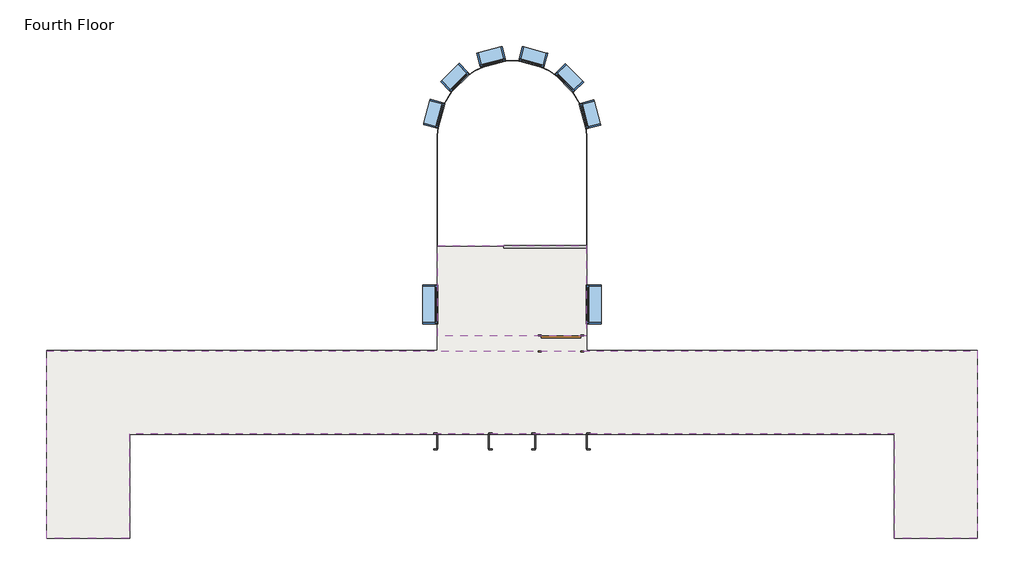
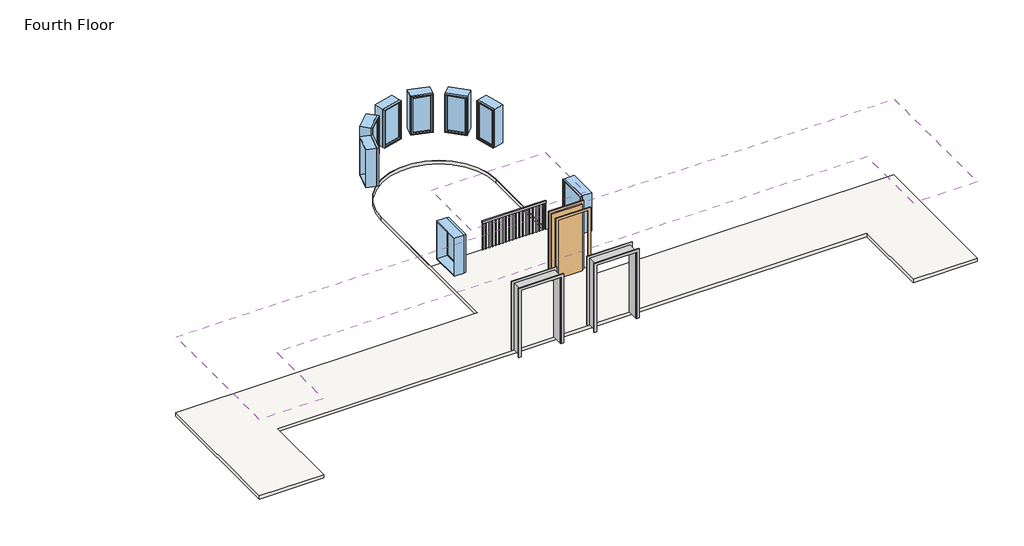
# One storey: 8 windows, 2 coverings, 2 proxies, 1 door, 1 railing, 1 slab.
"""IFC4 building model written with IfcOpenShell, lengths in millimetres."""

import ifcopenshell
import ifcopenshell.guid

model = None  # the IFC model being written
_history = None  # IfcOwnerHistory: only IFC2X3 demands one
_inside = {}  # id of a spatial element -> (the spatial element, [elements in it])
_under = {}  # id of a project, library or spatial element -> (it, [spatial elements below it])
_declared = {}  # id of a project -> (the project, [libraries it declares])
_typed = {}  # id of a type object -> (the type object, [elements of that type])
_made_of = {}  # id of a material, layer set ... -> (it, [elements and type objects made of it])


def new_model(schema):
    """Start an empty IFC model of exactly this schema.

    Asked for "IFC4X3", IfcOpenShell would pick the latest addendum, in which some entities
    have other attributes; the version numbers below select the first issue.
    IFC2X3 requires an IfcOwnerHistory on every rooted entity: one is made here for all.
    """
    global model, _history
    if schema == "IFC4X3":
        model = ifcopenshell.file(schema_version=(4, 3, 0, 0))
    else:
        model = ifcopenshell.file(schema=schema)
    _inside.clear()
    _under.clear()
    _declared.clear()
    _typed.clear()
    _made_of.clear()
    _history = None
    if model.schema == "IFC2X3":
        org = make("IfcOrganization", Name="unknown")
        user = make(
            "IfcPersonAndOrganization",
            ThePerson=make("IfcPerson", FamilyName="unknown"),
            TheOrganization=org,
        )
        app = make(
            "IfcApplication",
            ApplicationDeveloper=org,
            Version="unknown",
            ApplicationFullName="unknown",
            ApplicationIdentifier="unknown",
        )
        _history = make(
            "IfcOwnerHistory",
            OwningUser=user,
            OwningApplication=app,
            ChangeAction="ADDED",
            CreationDate=0,
        )
    return model


def make(cls, **values):
    """One entity of the class cls with the attributes given. An attribute that is None is left unset."""
    return model.create_entity(
        cls, **{name: value for name, value in values.items() if value is not None}
    )


def rooted(cls, **values):
    """An entity with a GlobalId (a new one), such as an element, a storey or a relation."""
    return make(cls, GlobalId=ifcopenshell.guid.new(), OwnerHistory=_history, **values)


def si_unit(unit_type, name, prefix=None):
    """IfcSIUnit, for example si_unit("LENGTHUNIT", "METRE", prefix="MILLI")."""
    return make("IfcSIUnit", UnitType=unit_type, Prefix=prefix, Name=name)


def assignment(units):
    """IfcUnitAssignment: the units of a project."""
    return None if units is None else make("IfcUnitAssignment", Units=units)


def point(xyz):
    """IfcCartesianPoint."""
    return None if xyz is None else make("IfcCartesianPoint", Coordinates=xyz)


def direction(xyz):
    """IfcDirection."""
    return None if xyz is None else make("IfcDirection", DirectionRatios=xyz)


def frame(location, z_axis=None, x_axis=None):
    """IfcAxis2Placement3D, a coordinate frame: its origin and axes. An axis left out is left unset."""
    return make(
        "IfcAxis2Placement3D",
        Location=point(location),
        Axis=direction(z_axis),
        RefDirection=direction(x_axis),
    )


def frame_2d(location, x_axis=None):
    """IfcAxis2Placement2D, a coordinate frame in the plane: its origin and x axis."""
    return make(
        "IfcAxis2Placement2D", Location=point(location), RefDirection=direction(x_axis)
    )


def origin():
    """The frame at (0, 0, 0) with its axes left unset."""
    return frame((0.0, 0.0, 0.0))


def origin_with_axes():
    """The frame at (0, 0, 0) with the z axis (0, 0, 1) and the x axis (1, 0, 0) written out."""
    return frame((0.0, 0.0, 0.0), z_axis=(0.0, 0.0, 1.0), x_axis=(1.0, 0.0, 0.0))


def place(relative_to, where):
    """IfcLocalPlacement: puts the frame where relative to a parent placement (None: the world)."""
    return make(
        "IfcLocalPlacement", PlacementRelTo=relative_to, RelativePlacement=where
    )


def context(
    kind, dimensions, precision=None, world=None, true_north=None, identifier=None
):
    """IfcGeometricRepresentationContext, for example the 3D "Model" context."""
    return make(
        "IfcGeometricRepresentationContext",
        ContextIdentifier=identifier,
        ContextType=kind,
        CoordinateSpaceDimension=dimensions,
        Precision=precision,
        WorldCoordinateSystem=world,
        TrueNorth=true_north,
    )


def project(units=None, contexts=None):
    """IfcProject with its units and contexts."""
    return rooted(
        "IfcProject",
        Name="project",
        RepresentationContexts=contexts,
        UnitsInContext=assignment(units),
    )


def spatial(cls, under=None, at=None, **own):
    """A site, building, storey or space (cls), placed at a placement, below another one or the project."""
    s = rooted(cls, ObjectPlacement=at, **own)
    if under is not None:
        _under.setdefault(under.id(), (under, []))[1].append(s)
    return s


def polyline(points):
    """IfcPolyline through the points."""
    return make("IfcPolyline", Points=[point(p) for p in points])


def circle_curve(where, radius):
    """IfcCircle in the frame where."""
    return make("IfcCircle", Position=where, Radius=radius)


def trimmed(basis, trim1, trim2, sense, master):
    """IfcTrimmedCurve: the piece of a basis curve between two trims."""
    return make(
        "IfcTrimmedCurve",
        BasisCurve=basis,
        Trim1=trim1,
        Trim2=trim2,
        SenseAgreement=sense,
        MasterRepresentation=master,
    )


def segment(curve, same_sense, transition):
    """IfcCompositeCurveSegment."""
    return make(
        "IfcCompositeCurveSegment",
        Transition=transition,
        SameSense=same_sense,
        ParentCurve=curve,
    )


def composite_curve(segments, self_intersect=None):
    """IfcCompositeCurve: segments joined end to end."""
    return make("IfcCompositeCurve", Segments=segments, SelfIntersect=self_intersect)


def outline(outer, holes=None, kind="AREA"):
    """IfcArbitraryClosedProfileDef: a profile drawn as a closed curve; with holes, ...WithVoids."""
    if holes is None:
        return make("IfcArbitraryClosedProfileDef", ProfileType=kind, OuterCurve=outer)
    return make(
        "IfcArbitraryProfileDefWithVoids",
        ProfileType=kind,
        OuterCurve=outer,
        InnerCurves=holes,
    )


def extrude(swept, where, along, depth):
    """IfcExtrudedAreaSolid: the profile swept, set in the frame where, extruded along a direction by depth."""
    return make(
        "IfcExtrudedAreaSolid",
        SweptArea=swept,
        Position=where,
        ExtrudedDirection=direction(along),
        Depth=depth,
    )


def faces_of(points, faces, orient=None, outer=None):
    """IfcFace entities. A face is a list of loops; a loop is a list of indices into points, from 0.

    orient and outer hold one flag for each loop. By default every Orientation is true, the
    first loop of a face is its IfcFaceOuterBound and the others are IfcFaceBound.
    """
    made = []
    for i, loops in enumerate(faces):
        bounds = []
        for j, loop in enumerate(loops):
            is_outer = j == 0 if outer is None else outer[i][j]
            bounds.append(
                make(
                    "IfcFaceOuterBound" if is_outer else "IfcFaceBound",
                    Bound=make("IfcPolyLoop", Polygon=[points[k] for k in loop]),
                    Orientation=True if orient is None else orient[i][j],
                )
            )
        made.append(make("IfcFace", Bounds=bounds))
    return made


def faceted_brep(points, faces, orient=None, outer=None, voids=None):
    """IfcFacetedBrep: a solid bounded by flat faces; with voids (closed shells), ...WithVoids."""
    shared = [point(p) for p in points]
    hull = make("IfcClosedShell", CfsFaces=faces_of(shared, faces, orient, outer))
    if voids is None:
        return make("IfcFacetedBrep", Outer=hull)
    return make(
        "IfcFacetedBrepWithVoids",
        Outer=hull,
        Voids=[
            make(cls, CfsFaces=faces_of(shared, fs, o, b)) for cls, fs, o, b in voids
        ],
    )


def shape(context_of_items, identifier, shape_type, items):
    """IfcShapeRepresentation: the items that make up one representation, for example the "Body"."""
    return make(
        "IfcShapeRepresentation",
        ContextOfItems=context_of_items,
        RepresentationIdentifier=identifier,
        RepresentationType=shape_type,
        Items=items,
    )


def source(mapping_origin, context_of_items, identifier, shape_type, items):
    """IfcRepresentationMap: a shape defined once, which mapped items show again and again."""
    return make(
        "IfcRepresentationMap",
        MappingOrigin=mapping_origin,
        MappedRepresentation=shape(context_of_items, identifier, shape_type, items),
    )


def transform(
    local_origin,
    x_axis=None,
    y_axis=None,
    z_axis=None,
    scale=None,
    scale2=None,
    scale3=None,
    uniform=True,
):
    """IfcCartesianTransformationOperator3D, or its non-uniform kind. x_axis, y_axis, z_axis: its Axis1, 2, 3."""
    if uniform:
        return make(
            "IfcCartesianTransformationOperator3D",
            Axis1=direction(x_axis),
            Axis2=direction(y_axis),
            LocalOrigin=point(local_origin),
            Scale=scale,
            Axis3=direction(z_axis),
        )
    return make(
        "IfcCartesianTransformationOperator3DnonUniform",
        Axis1=direction(x_axis),
        Axis2=direction(y_axis),
        LocalOrigin=point(local_origin),
        Scale=scale,
        Axis3=direction(z_axis),
        Scale2=scale2,
        Scale3=scale3,
    )


def mapped(mapping_source, mapping_target):
    """IfcMappedItem: shows the shape of a source again, moved by a transform."""
    return make(
        "IfcMappedItem", MappingSource=mapping_source, MappingTarget=mapping_target
    )


def made_of(thing, what):
    """Note that an element or type object is made of a material, layer set ...; save() writes the relation."""
    if what is not None:
        _made_of.setdefault(what.id(), (what, []))[1].append(thing)
    return thing


def element(
    cls,
    number,
    at=None,
    inside=None,
    cuts=None,
    type_object=None,
    material=None,
    context=None,
    identifier="Body",
    shape_type=None,
    held_by="IfcProductDefinitionShape",
    body=None,
    shapes=None,
    **own,
):
    """One element of the class cls, such as IfcWall. Its Tag is "e" and its number.

    at: its placement. inside: the storey or other place that contains it. cuts: it is an
    opening in that element (IfcRelVoidsElement). A single representation is given by context,
    identifier, shape_type and body (its items); several are given by shapes. held_by: the class
    of the entity that holds the representations. save() writes the other relations.
    """
    e = rooted(cls, Tag="e%d" % number, ObjectPlacement=at, **own)
    if body is not None:
        shapes = [shape(context, identifier, shape_type, body)]
    if shapes is not None:
        e.Representation = make(held_by, Representations=shapes)
    if inside is not None:
        _inside.setdefault(inside.id(), (inside, []))[1].append(e)
    if cuts is not None:
        rooted(
            "IfcRelVoidsElement", RelatingBuildingElement=cuts, RelatedOpeningElement=e
        )
    if type_object is not None:
        _typed.setdefault(type_object.id(), (type_object, []))[1].append(e)
    return made_of(e, material)


def aggregate(whole, parts):
    """IfcRelAggregates: a whole, such as a stair, and the parts it consists of."""
    return rooted("IfcRelAggregates", RelatingObject=whole, RelatedObjects=parts)


def save(model, path):
    """Write the relations noted so far, then the file.

    IfcRelAggregates (storeys below a building ...), IfcRelContainedInSpatialStructure (elements
    in a storey), IfcRelDefinesByType, IfcRelAssociatesMaterial and IfcRelDeclares: one each for
    every whole, place, type object, material and project.
    """
    for whole, parts in _under.values():
        aggregate(whole, parts)
    for where, things in _inside.values():
        rooted(
            "IfcRelContainedInSpatialStructure",
            RelatedElements=things,
            RelatingStructure=where,
        )
    for kind, things in _typed.values():
        rooted("IfcRelDefinesByType", RelatedObjects=things, RelatingType=kind)
    for what, things in _made_of.values():
        rooted("IfcRelAssociatesMaterial", RelatedObjects=things, RelatingMaterial=what)
    for by, libraries in _declared.values():
        rooted("IfcRelDeclares", RelatingContext=by, RelatedDefinitions=libraries)
    model.write(path)


def proxy_c3589814(model_context):
    return source(origin(), model_context, "Body", "SolidModel", [
        extrude(outline(polyline([(0.0, -611.4386567), (2127.25, -611.4386567), (2127.25, 595.0613433), (0.0, 595.0613433), (0.0, 671.2613433), (2203.45, 671.2613433), (2203.45, -687.6386567), (0.0, -687.6386567), (0.0, -611.4386567)])), frame((0.0, -195.2625, 0.0), z_axis=(0.0, 1.0, 0.0), x_axis=(0.0, 0.0, 1.0)), (0.0, 0.0, 1.0), 19.05),
        extrude(outline(polyline([(0.0, 671.2613433), (2209.8, 671.2613433), (2209.8, -687.6386567), (0.0, -687.6386567), (0.0, -611.4386567), (2127.25, -611.4386567), (2127.25, 595.0613433), (0.0, 595.0613433), (0.0, 671.2613433)])), frame((0.0, 176.2125, 0.0), z_axis=(0.0, 1.0, 0.0), x_axis=(0.0, 0.0, 1.0)), (0.0, 0.0, 1.0), 19.05),
        faceted_brep([(582.3613433, 176.2125, 0.0), (601.4113433, 176.2125, 0.0), (601.4113433, -176.2125, 0.0), (582.3613433, -176.2125, 0.0), (582.3613433, 176.2125, 2114.55), (601.4113433, 176.2125, 2133.6), (601.4113433, -176.2125, 2133.6), (582.3613433, -176.2125, 2114.55), (-598.7386567, 176.2125, 2114.55), (-617.7886567, 176.2125, 2133.6), (-617.7886567, -176.2125, 2133.6), (-598.7386567, -176.2125, 2114.55), (-598.7386567, 176.2125, 0.0), (-598.7386567, -176.2125, 0.0), (-617.7886567, -176.2125, 0.0), (-617.7886567, 176.2125, 0.0)], [[[0, 1, 2, 3]], [[1, 0, 4, 5]], [[2, 1, 5, 6]], [[3, 2, 6, 7]], [[0, 3, 7, 4]], [[5, 4, 8, 9]], [[6, 5, 9, 10]], [[7, 6, 10, 11]], [[4, 7, 11, 8]], [[12, 13, 14, 15]], [[9, 8, 12, 15]], [[10, 9, 15, 14]], [[11, 10, 14, 13]], [[8, 11, 13, 12]]]),
    ])


def door_632be17d(model_context):
    return source(origin(), model_context, "Body", "SweptSolid", [
        extrude(outline(polyline([(2209.8, -533.4), (0.0, -533.4), (0.0, -457.2), (2133.6, -457.2), (2133.6, 457.2), (0.0, 457.2), (0.0, 533.4), (2209.8, 533.4), (2209.8, -533.4)])), frame((0.0, 176.2125, 0.0), z_axis=(0.0, 1.0, 0.0), x_axis=(0.0, 0.0, 1.0)), (0.0, 0.0, 1.0), 25.4),
        extrude(outline(polyline([(2209.8, 533.4), (2209.8, -533.4), (0.0, -533.4), (0.0, -457.2), (2133.6, -457.2), (2133.6, 457.2), (0.0, 457.2), (0.0, 533.4), (2209.8, 533.4)])), frame((0.0, -201.6125, 0.0), z_axis=(0.0, 1.0, 0.0), x_axis=(0.0, 0.0, 1.0)), (0.0, 0.0, 1.0), 25.4),
        extrude(outline(polyline([(457.2, 125.4125), (-457.2, 125.4125), (-457.2, 176.2125), (457.2, 176.2125), (457.2, 125.4125)])), origin_with_axes(), (0.0, 0.0, 1.0), 2133.6),
    ])


def handrail_rectangular_fea96ac0(model_context):
    return source(origin(), model_context, "Body", "SweptSolid", [
        extrude(outline(polyline([(-6434.5274687, 6951.1758812), (-6434.5274687, 7001.9758812), (-4516.8274687, 7001.9758812), (-4516.8274687, 6951.1758812), (-6434.5274687, 6951.1758812)])), frame((0.0, 0.0, 10007.6), z_axis=(0.0, 0.0, 1.0), x_axis=(1.0, 0.0, 0.0)), (0.0, 0.0, 1.0), 50.8),
        extrude(outline(polyline([(-4615.2524687, 6967.0508812), (-4615.2524687, 6986.1008812), (-4596.2024687, 6986.1008812), (-4596.2024687, 6967.0508812), (-4615.2524687, 6967.0508812)])), frame((0.0, 0.0, 9144.0), z_axis=(0.0, 0.0, 1.0), x_axis=(1.0, 0.0, 0.0)), (0.0, 0.0, 1.0), 863.6),
        extrude(outline(polyline([(-4716.8524687, 6967.0508812), (-4716.8524687, 6986.1008812), (-4697.8024687, 6986.1008812), (-4697.8024687, 6967.0508812), (-4716.8524687, 6967.0508812)])), frame((0.0, 0.0, 9144.0), z_axis=(0.0, 0.0, 1.0), x_axis=(1.0, 0.0, 0.0)), (0.0, 0.0, 1.0), 863.6),
        extrude(outline(polyline([(-4818.4524687, 6967.0508812), (-4818.4524687, 6986.1008812), (-4799.4024687, 6986.1008812), (-4799.4024687, 6967.0508812), (-4818.4524687, 6967.0508812)])), frame((0.0, 0.0, 9144.0), z_axis=(0.0, 0.0, 1.0), x_axis=(1.0, 0.0, 0.0)), (0.0, 0.0, 1.0), 863.6),
        extrude(outline(polyline([(-4920.0524687, 6967.0508812), (-4920.0524687, 6986.1008812), (-4901.0024687, 6986.1008812), (-4901.0024687, 6967.0508812), (-4920.0524687, 6967.0508812)])), frame((0.0, 0.0, 9144.0), z_axis=(0.0, 0.0, 1.0), x_axis=(1.0, 0.0, 0.0)), (0.0, 0.0, 1.0), 863.6),
        extrude(outline(polyline([(-5021.6524687, 6967.0508812), (-5021.6524687, 6986.1008812), (-5002.6024687, 6986.1008812), (-5002.6024687, 6967.0508812), (-5021.6524687, 6967.0508812)])), frame((0.0, 0.0, 9144.0), z_axis=(0.0, 0.0, 1.0), x_axis=(1.0, 0.0, 0.0)), (0.0, 0.0, 1.0), 863.6),
        extrude(outline(polyline([(-5123.2524687, 6967.0508812), (-5123.2524687, 6986.1008812), (-5104.2024687, 6986.1008812), (-5104.2024687, 6967.0508812), (-5123.2524687, 6967.0508812)])), frame((0.0, 0.0, 9144.0), z_axis=(0.0, 0.0, 1.0), x_axis=(1.0, 0.0, 0.0)), (0.0, 0.0, 1.0), 863.6),
        extrude(outline(polyline([(-5224.8524687, 6967.0508812), (-5224.8524687, 6986.1008812), (-5205.8024687, 6986.1008812), (-5205.8024687, 6967.0508812), (-5224.8524687, 6967.0508812)])), frame((0.0, 0.0, 9144.0), z_axis=(0.0, 0.0, 1.0), x_axis=(1.0, 0.0, 0.0)), (0.0, 0.0, 1.0), 863.6),
        extrude(outline(polyline([(-5326.4524687, 6967.0508812), (-5326.4524687, 6986.1008812), (-5307.4024687, 6986.1008812), (-5307.4024687, 6967.0508812), (-5326.4524687, 6967.0508812)])), frame((0.0, 0.0, 9144.0), z_axis=(0.0, 0.0, 1.0), x_axis=(1.0, 0.0, 0.0)), (0.0, 0.0, 1.0), 863.6),
        extrude(outline(polyline([(-5428.0524687, 6967.0508812), (-5428.0524687, 6986.1008812), (-5409.0024687, 6986.1008812), (-5409.0024687, 6967.0508812), (-5428.0524687, 6967.0508812)])), frame((0.0, 0.0, 9144.0), z_axis=(0.0, 0.0, 1.0), x_axis=(1.0, 0.0, 0.0)), (0.0, 0.0, 1.0), 863.6),
        extrude(outline(polyline([(-5529.6524687, 6967.0508812), (-5529.6524687, 6986.1008812), (-5510.6024687, 6986.1008812), (-5510.6024687, 6967.0508812), (-5529.6524687, 6967.0508812)])), frame((0.0, 0.0, 9144.0), z_axis=(0.0, 0.0, 1.0), x_axis=(1.0, 0.0, 0.0)), (0.0, 0.0, 1.0), 863.6),
        extrude(outline(polyline([(-5631.2524687, 6967.0508812), (-5631.2524687, 6986.1008812), (-5612.2024687, 6986.1008812), (-5612.2024687, 6967.0508812), (-5631.2524687, 6967.0508812)])), frame((0.0, 0.0, 9144.0), z_axis=(0.0, 0.0, 1.0), x_axis=(1.0, 0.0, 0.0)), (0.0, 0.0, 1.0), 863.6),
        extrude(outline(polyline([(-5732.8524687, 6967.0508812), (-5732.8524687, 6986.1008812), (-5713.8024687, 6986.1008812), (-5713.8024687, 6967.0508812), (-5732.8524687, 6967.0508812)])), frame((0.0, 0.0, 9144.0), z_axis=(0.0, 0.0, 1.0), x_axis=(1.0, 0.0, 0.0)), (0.0, 0.0, 1.0), 863.6),
        extrude(outline(polyline([(-5834.4524687, 6967.0508812), (-5834.4524687, 6986.1008812), (-5815.4024687, 6986.1008812), (-5815.4024687, 6967.0508812), (-5834.4524687, 6967.0508812)])), frame((0.0, 0.0, 9144.0), z_axis=(0.0, 0.0, 1.0), x_axis=(1.0, 0.0, 0.0)), (0.0, 0.0, 1.0), 863.6),
        extrude(outline(polyline([(-5936.0524687, 6967.0508812), (-5936.0524687, 6986.1008812), (-5917.0024687, 6986.1008812), (-5917.0024687, 6967.0508812), (-5936.0524687, 6967.0508812)])), frame((0.0, 0.0, 9144.0), z_axis=(0.0, 0.0, 1.0), x_axis=(1.0, 0.0, 0.0)), (0.0, 0.0, 1.0), 863.6),
        extrude(outline(polyline([(-6037.6524687, 6967.0508812), (-6037.6524687, 6986.1008812), (-6018.6024687, 6986.1008812), (-6018.6024687, 6967.0508812), (-6037.6524687, 6967.0508812)])), frame((0.0, 0.0, 9144.0), z_axis=(0.0, 0.0, 1.0), x_axis=(1.0, 0.0, 0.0)), (0.0, 0.0, 1.0), 863.6),
        extrude(outline(polyline([(-6139.2524687, 6967.0508812), (-6139.2524687, 6986.1008812), (-6120.2024687, 6986.1008812), (-6120.2024687, 6967.0508812), (-6139.2524687, 6967.0508812)])), frame((0.0, 0.0, 9144.0), z_axis=(0.0, 0.0, 1.0), x_axis=(1.0, 0.0, 0.0)), (0.0, 0.0, 1.0), 863.6),
        extrude(outline(polyline([(-6240.8524687, 6967.0508812), (-6240.8524687, 6986.1008812), (-6221.8024687, 6986.1008812), (-6221.8024687, 6967.0508812), (-6240.8524687, 6967.0508812)])), frame((0.0, 0.0, 9144.0), z_axis=(0.0, 0.0, 1.0), x_axis=(1.0, 0.0, 0.0)), (0.0, 0.0, 1.0), 863.6),
        extrude(outline(polyline([(-6342.4524687, 6967.0508812), (-6342.4524687, 6986.1008812), (-6323.4024687, 6986.1008812), (-6323.4024687, 6967.0508812), (-6342.4524687, 6967.0508812)])), frame((0.0, 0.0, 9144.0), z_axis=(0.0, 0.0, 1.0), x_axis=(1.0, 0.0, 0.0)), (0.0, 0.0, 1.0), 863.6),
        extrude(outline(polyline([(-4535.8774687, 6967.0508812), (-4535.8774687, 6986.1008812), (-4516.8274687, 6986.1008812), (-4516.8274687, 6967.0508812), (-4535.8774687, 6967.0508812)])), frame((0.0, 0.0, 9144.0), z_axis=(0.0, 0.0, 1.0), x_axis=(1.0, 0.0, 0.0)), (0.0, 0.0, 1.0), 863.6),
        extrude(outline(polyline([(-6434.5274687, 6967.0508812), (-6434.5274687, 6986.1008812), (-6415.4774687, 6986.1008812), (-6415.4774687, 6967.0508812), (-6434.5274687, 6967.0508812)])), frame((0.0, 0.0, 9144.0), z_axis=(0.0, 0.0, 1.0), x_axis=(1.0, 0.0, 0.0)), (0.0, 0.0, 1.0), 863.6),
    ])


def window_60baf983(model_context):
    return source(origin(), model_context, "Body", "SweptSolid", [
        extrude(outline(polyline([(203.2, 128.5875), (-279.4, 128.5875), (-279.4, 141.2875), (203.2, 141.2875), (203.2, 128.5875)])), frame((0.0, 0.0, 977.9), z_axis=(0.0, 0.0, 1.0), x_axis=(1.0, 0.0, 0.0)), (0.0, 0.0, 1.0), 1092.2),
        extrude(outline(polyline([(2114.55, -323.85), (933.45, -323.85), (933.45, 247.65), (2114.55, 247.65), (2114.55, -323.85)]), holes=[polyline([(2070.1, -279.4), (2070.1, 203.2), (977.9, 203.2), (977.9, -279.4), (2070.1, -279.4)])]), frame((0.0, 112.7125, 0.0), z_axis=(0.0, 1.0, 0.0), x_axis=(0.0, 0.0, 1.0)), (0.0, 0.0, 1.0), 44.45),
        extrude(outline(polyline([(2133.6, -342.9), (914.4, -342.9), (914.4, 266.7), (2133.6, 266.7), (2133.6, -342.9)]), holes=[polyline([(2101.85, -311.15), (2101.85, 234.95), (946.15, 234.95), (946.15, -311.15), (2101.85, -311.15)])]), frame((0.0, -176.2125, 0.0), z_axis=(0.0, 1.0, 0.0), x_axis=(0.0, 0.0, 1.0)), (0.0, 0.0, 1.0), 288.925),
        extrude(outline(polyline([(2133.6, 266.7), (2133.6, -342.9), (914.4, -342.9), (914.4, 266.7), (2133.6, 266.7)]), holes=[polyline([(2114.55, 247.65), (933.45, 247.65), (933.45, -323.85), (2114.55, -323.85), (2114.55, 247.65)])]), frame((0.0, 112.7125, 0.0), z_axis=(0.0, 1.0, 0.0), x_axis=(0.0, 0.0, 1.0)), (0.0, 0.0, 1.0), 63.5),
    ])


def window_15c49d37(model_context):
    return source(origin(), model_context, "Body", "SweptSolid", [
        extrude(outline(polyline([(355.6, 128.5875), (-431.8, 128.5875), (-431.8, 141.2875), (355.6, 141.2875), (355.6, 128.5875)])), frame((0.0, 0.0, 977.9), z_axis=(0.0, 0.0, 1.0), x_axis=(1.0, 0.0, 0.0)), (0.0, 0.0, 1.0), 1092.2),
        extrude(outline(polyline([(2114.55, -476.25), (933.45, -476.25), (933.45, 400.05), (2114.55, 400.05), (2114.55, -476.25)]), holes=[polyline([(2070.1, -431.8), (2070.1, 355.6), (977.9, 355.6), (977.9, -431.8), (2070.1, -431.8)])]), frame((0.0, 112.7125, 0.0), z_axis=(0.0, 1.0, 0.0), x_axis=(0.0, 0.0, 1.0)), (0.0, 0.0, 1.0), 44.45),
        extrude(outline(polyline([(2133.6, -495.3), (914.4, -495.3), (914.4, 419.1), (2133.6, 419.1), (2133.6, -495.3)]), holes=[polyline([(2101.85, -463.55), (2101.85, 387.35), (946.15, 387.35), (946.15, -463.55), (2101.85, -463.55)])]), frame((0.0, -176.2125, 0.0), z_axis=(0.0, 1.0, 0.0), x_axis=(0.0, 0.0, 1.0)), (0.0, 0.0, 1.0), 288.925),
        extrude(outline(polyline([(2133.6, 419.1), (2133.6, -495.3), (914.4, -495.3), (914.4, 419.1), (2133.6, 419.1)]), holes=[polyline([(2114.55, 400.05), (933.45, 400.05), (933.45, -476.25), (2114.55, -476.25), (2114.55, 400.05)])]), frame((0.0, 112.7125, 0.0), z_axis=(0.0, 1.0, 0.0), x_axis=(0.0, 0.0, 1.0)), (0.0, 0.0, 1.0), 63.5),
    ])


model = new_model("IFC4")

# Units and contexts
model_context = context("Model", 3, world=origin())
ifc_project = project(units=[si_unit("LENGTHUNIT", "METRE", prefix="MILLI")], contexts=[model_context])

# Site, building, storey
site = spatial("IfcSite", under=ifc_project)
building = spatial("IfcBuilding", under=site)
storey = spatial("IfcBuildingStorey", under=building, Name="Fourth Floor", Elevation=9144.0)

# Proxies
placement = place(None, origin())
proxy_shape = proxy_c3589814(model_context)
element("IfcBuildingElementProxy", 1, Name="Opening-Cased : 48\" x 84\"", ObjectType="Opening-Cased : 48\" x 84\"", at=placement, inside=storey, context=model_context, shape_type="MappedRepresentation", body=[
    mapped(proxy_shape, transform((-7396.8036255, 2429.9758812, 9144.0), x_axis=(-1.0, 0.0, 0.0), y_axis=(0.0, -1.0, 0.0), z_axis=(0.0, 0.0, 1.0))),
])
element("IfcBuildingElementProxy", 2, Name="Opening-Cased : 48\" x 84\"", ObjectType="Opening-Cased : 48\" x 84\"", at=placement, inside=storey, context=model_context, shape_type="MappedRepresentation", body=[
    mapped(proxy_shape, transform((-5110.8036255, 2429.9758812, 9144.0), x_axis=(-1.0, 0.0, 0.0), y_axis=(0.0, -1.0, 0.0), z_axis=(0.0, 0.0, 1.0))),
])

# Coverings
element("IfcCovering", 3, ObjectType="GWB on Mtl. Stud", at=placement, inside=storey, context=model_context, shape_type="SweptSolid", body=[
    extrude(outline(polyline([(-4516.8274687, 4892.1883812), (-7974.4024687, 4892.1883812), (-7974.4024687, 7001.9758812), (-4516.8274687, 7001.9758812), (-4516.8274687, 4892.1883812)])), frame((0.0, 0.0, 11582.4), z_axis=(0.0, 0.0, 1.0), x_axis=(1.0, 0.0, 0.0)), (0.0, 0.0, 1.0), 107.95),
])
element("IfcCovering", 4, ObjectType="GWB on Mtl. Stud", at=placement, inside=storey, context=model_context, shape_type="SweptSolid", body=[
    extrude(outline(polyline([(2693.5975313, 167.7883812), (2693.5975313, 2606.1883812), (-15184.8274687, 2606.1883812), (-15184.8274687, 167.7883812), (-17118.4024687, 167.7883812), (-17118.4024687, 4539.7633812), (4627.1725313, 4539.7633812), (4627.1725313, 167.7883812), (2693.5975313, 167.7883812)])), frame((0.0, 0.0, 11582.4), z_axis=(0.0, 0.0, 1.0), x_axis=(1.0, 0.0, 0.0)), (0.0, 0.0, 1.0), 107.95),
])

# Door
door_shape = door_632be17d(model_context)
element("IfcDoor", 5, ObjectType="Single-Flush : 36\" x 84\"", at=placement, inside=storey, context=model_context, shape_type="MappedRepresentation", body=[
    mapped(door_shape, transform((-5102.6149687, 4715.9758812, 9144.0), x_axis=(1.0, 0.0, 0.0), y_axis=(0.0, 1.0, 0.0), z_axis=(0.0, 0.0, 1.0))),
])

# Railing
handrail_rectangular_shape = handrail_rectangular_fea96ac0(model_context)
element("IfcRailing", 6, ObjectType="Handrail - Rectangular", at=placement, inside=storey, context=model_context, shape_type="MappedRepresentation", body=[
    mapped(handrail_rectangular_shape, transform((0.0, 0.0, 0.0), x_axis=(1.0, 0.0, 0.0), y_axis=(0.0, 1.0, 0.0), z_axis=(0.0, 0.0, 1.0))),
])

# Slab
element("IfcSlab", 7, ObjectType="LW Concrete on Metal Deck", at=placement, inside=storey, context=model_context, shape_type="SweptSolid", body=[
    extrude(outline(composite_curve([segment(polyline([(-4504.1274687, 9592.7758812), (-4504.1274687, 4552.4633812), (4627.1725313, 4552.4633812), (4627.1725313, 167.7883812), (2680.8975313, 167.7883812), (2680.8975313, 2593.4883812), (-15172.1274687, 2593.4883812), (-15172.1274687, 167.7883812), (-17118.4024687, 167.7883812), (-17118.4024687, 4552.4633812), (-7987.1024687, 4552.4633812), (-7987.1024687, 9592.7758812)]), True, "CONTINUOUS"), segment(trimmed(circle_curve(frame_2d((-6245.6149687, 9592.7758812)), 1741.4875), [point((-7987.1024687, 9592.7758812))], [point((-4504.1274687, 9592.7758812))], False, "CARTESIAN"), True, "CONTINUOUS")], self_intersect=False), holes=[composite_curve([segment(polyline([(-7974.4024687, 7001.9758812), (-4516.8274687, 7001.9758812), (-4516.8274687, 9592.7758812)]), True, "CONTINUOUS"), segment(trimmed(circle_curve(frame_2d((-6245.6149687, 9592.7758812)), 1728.7875), [point((-4516.8274687, 9592.7758812))], [point((-7974.4024687, 9592.7758812))], True, "CARTESIAN"), True, "CONTINUOUS"), segment(polyline([(-7974.4024687, 9592.7758812), (-7974.4024687, 7001.9758812)]), True, "CONTINUOUS")], self_intersect=False)]), frame((0.0, 0.0, 9039.225), z_axis=(0.0, 0.0, 1.0), x_axis=(1.0, 0.0, 0.0)), (0.0, 0.0, 1.0), 104.775),
])

# Windows
window_shape = window_60baf983(model_context)
element("IfcWindow", 8, ObjectType="Fixed : 24\" x 48\"", at=placement, inside=storey, context=model_context, shape_type="MappedRepresentation", body=[
    mapped(window_shape, transform((-8072.5076754, 10048.7859441, 9144.0), x_axis=(-0.26176149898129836, -0.9651325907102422, 0.0), y_axis=(0.9651325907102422, -0.26176149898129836, 0.0), z_axis=(0.0, 0.0, 1.0))),
])
element("IfcWindow", 9, ObjectType="Fixed : 24\" x 48\"", at=placement, inside=storey, context=model_context, shape_type="MappedRepresentation", body=[
    mapped(window_shape, transform((-7599.7454312, 10901.1385333, 9144.0), x_axis=(-0.7092584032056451, -0.7049485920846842, 0.0), y_axis=(0.7049485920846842, -0.7092584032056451, 0.0), z_axis=(0.0, 0.0, 1.0))),
])
element("IfcWindow", 10, ObjectType="Fixed : 24\" x 48\"", at=placement, inside=storey, context=model_context, shape_type="MappedRepresentation", body=[
    mapped(window_shape, transform((-6764.1450232, 11402.9164066, 9144.0), x_axis=(-0.9667100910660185, -0.25587418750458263, 0.0), y_axis=(0.25587418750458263, -0.9667100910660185, 0.0), z_axis=(0.0, 0.0, 1.0))),
])
element("IfcWindow", 11, ObjectType="Fixed : 24\" x 48\"", at=placement, inside=storey, context=model_context, shape_type="MappedRepresentation", body=[
    mapped(window_shape, transform((-5789.6049059, 11419.6685878, 9144.0), x_axis=(-0.9651325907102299, 0.2617614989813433, 0.0), y_axis=(-0.2617614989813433, -0.9651325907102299, 0.0), z_axis=(0.0, 0.0, 1.0))),
])
element("IfcWindow", 12, ObjectType="Fixed : 24\" x 48\"", at=placement, inside=storey, context=model_context, shape_type="MappedRepresentation", body=[
    mapped(window_shape, transform((-4937.2523166, 10946.9063437, 9144.0), x_axis=(-0.7049485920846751, 0.7092584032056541, 0.0), y_axis=(-0.7092584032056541, -0.7049485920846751, 0.0), z_axis=(0.0, 0.0, 1.0))),
])
element("IfcWindow", 13, ObjectType="Fixed : 24\" x 48\"", at=placement, inside=storey, context=model_context, shape_type="MappedRepresentation", body=[
    mapped(window_shape, transform((-4435.4744434, 10111.3059357, 9144.0), x_axis=(-0.25587418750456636, 0.9667100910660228, 0.0), y_axis=(-0.9667100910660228, -0.25587418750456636, 0.0), z_axis=(0.0, 0.0, 1.0))),
])
window_2_shape = window_15c49d37(model_context)
element("IfcWindow", 14, ObjectType="Fixed : 36\" x 48\"", at=placement, inside=storey, context=model_context, shape_type="MappedRepresentation", body=[
    mapped(window_2_shape, transform((-8150.6149687, 5592.2758812, 9144.0), x_axis=(0.0, -1.0, 0.0), y_axis=(1.0, 0.0, 0.0), z_axis=(0.0, 0.0, 1.0))),
])
element("IfcWindow", 15, ObjectType="Fixed : 36\" x 48\"", at=placement, inside=storey, context=model_context, shape_type="MappedRepresentation", body=[
    mapped(window_2_shape, transform((-4340.6149687, 5668.4758812, 9144.0), x_axis=(0.0, 1.0, 0.0), y_axis=(-1.0, 0.0, 0.0), z_axis=(0.0, 0.0, 1.0))),
])

save(model, "model.ifc")
